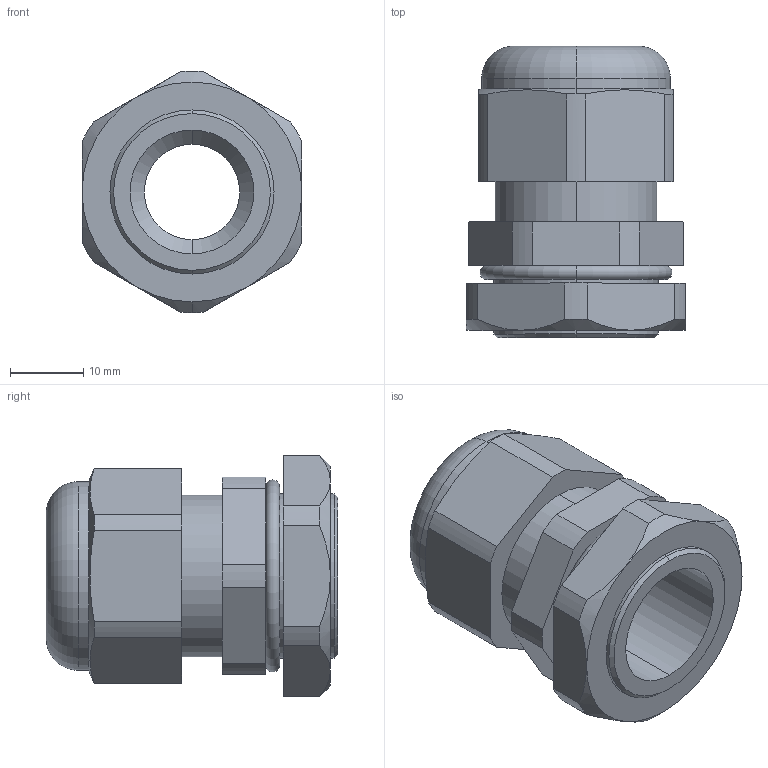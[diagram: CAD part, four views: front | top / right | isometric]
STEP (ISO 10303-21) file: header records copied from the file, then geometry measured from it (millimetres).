
FILE_DESCRIPTION (( 'STEP AP203' ), '1' );
FILE_NAME ('CH-PG16.STEP', '2018-02-07T14:37:39', ( '' ), ( '' ), 'SwSTEP 2.0', 'SolidWorks 2012', '' );
FILE_SCHEMA (( 'CONFIG_CONTROL_DESIGN' ));
Length unit declared in the file: millimetre
Products named in the file (1): CH-PG16
Bounding box: 30 x 39.8 x 32.99 mm (x, y, z)
Volume: 15321.6 mm3; surface area: 7407.8 mm2
Topology: 1 solids, 1 shells, 78 faces, 189 edges, 118 vertices
Faces by surface type: cylinder 34, plane 25, cone 15, torus 4
Entity records: 2482 total; most frequent: CARTESIAN_POINT 536, DIRECTION 415, ORIENTED_EDGE 378, EDGE_CURVE 189, AXIS2_PLACEMENT_3D 165, VERTEX_POINT 118, CIRCLE 86, VECTOR 85
